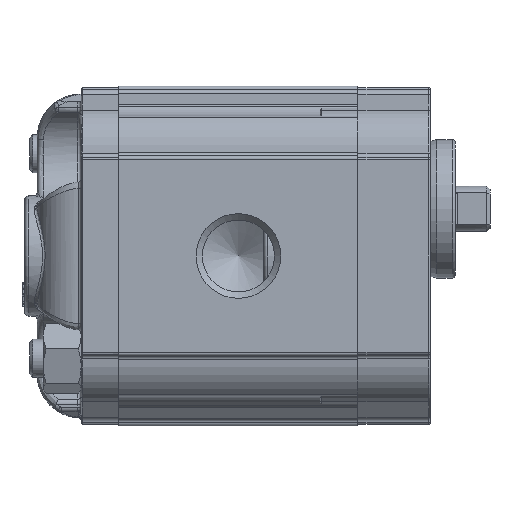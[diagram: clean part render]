
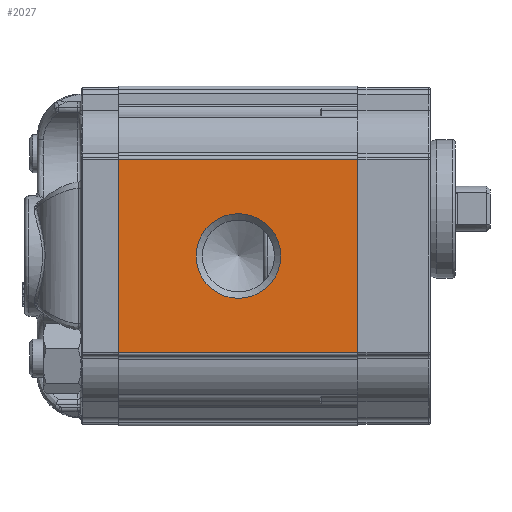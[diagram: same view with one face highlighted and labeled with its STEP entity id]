
A CAD part, left-side view. The second image highlights one B-rep face of the part: STEP entity #2027.
In plain terms, the highlighted planar face has unit normal (-1, 0, 0).
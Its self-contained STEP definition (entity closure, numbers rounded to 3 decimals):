
#2027 = ADVANCED_FACE( '', ( #5248, #5249 ), #5250, .T. );
#5248 = FACE_BOUND( '', #10473, .T. );
#5249 = FACE_OUTER_BOUND( '', #10474, .T. );
#5250 = PLANE( '', #10475 );
#10473 = EDGE_LOOP( '', ( #18520 ) );
#10474 = EDGE_LOOP( '', ( #18521, #18522, #18523, #18524 ) );
#10475 = AXIS2_PLACEMENT_3D( '', #18525, #18526, #18527 );
#18520 = ORIENTED_EDGE( '', *, *, #30586, .T. );
#18521 = ORIENTED_EDGE( '', *, *, #30587, .F. );
#18522 = ORIENTED_EDGE( '', *, *, #30588, .F. );
#18523 = ORIENTED_EDGE( '', *, *, #30589, .T. );
#18524 = ORIENTED_EDGE( '', *, *, #30590, .T. );
#18525 = CARTESIAN_POINT( '', ( -25., 38., 15.418 ) );
#18526 = DIRECTION( '', ( -1., 0., 0. ) );
#18527 = DIRECTION( '', ( 0., 0., 1. ) );
#30586 = EDGE_CURVE( '', #37015, #37015, #37016, .F. );
#30587 = EDGE_CURVE( '', #37017, #37018, #37019, .T. );
#30588 = EDGE_CURVE( '', #37020, #37017, #37021, .T. );
#30589 = EDGE_CURVE( '', #37020, #37022, #37023, .T. );
#30590 = EDGE_CURVE( '', #37022, #37018, #37024, .T. );
#37015 = VERTEX_POINT( '', #47627 );
#37016 = CIRCLE( '', #47628, 6.723 );
#37017 = VERTEX_POINT( '', #47629 );
#37018 = VERTEX_POINT( '', #47630 );
#37019 = LINE( '', #47631, #47632 );
#37020 = VERTEX_POINT( '', #47633 );
#37021 = LINE( '', #47634, #47635 );
#37022 = VERTEX_POINT( '', #47636 );
#37023 = LINE( '', #47637, #47638 );
#37024 = LINE( '', #47639, #47640 );
#47627 = CARTESIAN_POINT( '', ( -25., 19., 6.723 ) );
#47628 = AXIS2_PLACEMENT_3D( '', #57966, #57967, #57968 );
#47629 = CARTESIAN_POINT( '', ( -25., 0., 15.418 ) );
#47630 = CARTESIAN_POINT( '', ( -25., 0., -15.418 ) );
#47631 = CARTESIAN_POINT( '', ( -25., 0., 15.418 ) );
#47632 = VECTOR( '', #57969, 1000. );
#47633 = CARTESIAN_POINT( '', ( -25., 38., 15.418 ) );
#47634 = CARTESIAN_POINT( '', ( -25., 38., 15.418 ) );
#47635 = VECTOR( '', #57970, 1000. );
#47636 = CARTESIAN_POINT( '', ( -25., 38., -15.418 ) );
#47637 = CARTESIAN_POINT( '', ( -25., 38., 15.418 ) );
#47638 = VECTOR( '', #57971, 1000. );
#47639 = CARTESIAN_POINT( '', ( -25., 38., -15.418 ) );
#47640 = VECTOR( '', #57972, 1000. );
#57966 = CARTESIAN_POINT( '', ( -25., 19., 0. ) );
#57967 = DIRECTION( '', ( -1., 0., 0. ) );
#57968 = DIRECTION( '', ( 0., 0., 1. ) );
#57969 = DIRECTION( '', ( 0., 0., -1. ) );
#57970 = DIRECTION( '', ( 0., -1., 0. ) );
#57971 = DIRECTION( '', ( 0., 0., -1. ) );
#57972 = DIRECTION( '', ( 0., -1., 0. ) );
